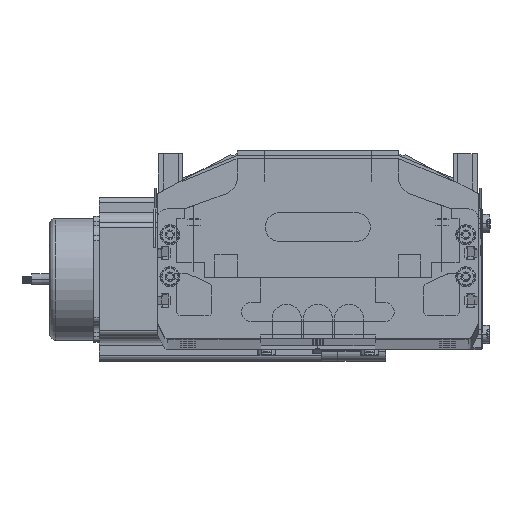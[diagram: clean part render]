
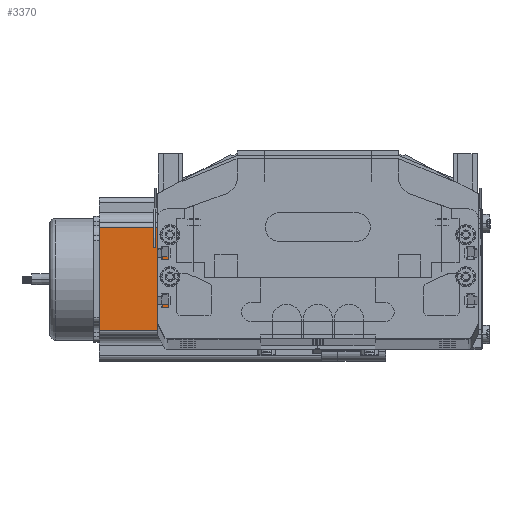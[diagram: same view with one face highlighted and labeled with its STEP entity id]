
A CAD part, top view. The second image highlights one B-rep face of the part: STEP entity #3370.
In plain terms, the highlighted planar face has unit normal (0, 0, 1) as drawn and (0, -1, 0) by its records, which use the part's own axes.
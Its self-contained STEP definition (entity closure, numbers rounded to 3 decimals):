
#3111 = ORIENTED_EDGE ( 'NONE', *, *, #3206, .T. ) ;
#3112 = EDGE_CURVE ( 'NONE', #3281, #3482, #11361, .T. ) ;
#3118 = ORIENTED_EDGE ( 'NONE', *, *, #3112, .F. ) ;
#3119 = EDGE_CURVE ( 'NONE', #3281, #3483, #11342, .T. ) ;
#3128 = ORIENTED_EDGE ( 'NONE', *, *, #3119, .T. ) ;
#3205 = ORIENTED_EDGE ( 'NONE', *, *, #3209, .T. ) ;
#3206 = EDGE_CURVE ( 'NONE', #3279, #3482, #11309, .T. ) ;
#3209 = EDGE_CURVE ( 'NONE', #3483, #3279, #11301, .T. ) ;
#3247 = EDGE_LOOP ( 'NONE', ( #3205, #3111, #3118, #3128 ) ) ;
#3279 = VERTEX_POINT ( 'NONE', #12674 ) ;
#3281 = VERTEX_POINT ( 'NONE', #12685 ) ;
#3370 = ADVANCED_FACE ( 'NONE', ( #12552 ), #12550, .F. ) ;
#3482 = VERTEX_POINT ( 'NONE', #13035 ) ;
#3483 = VERTEX_POINT ( 'NONE', #12944 ) ;
#11292 = DIRECTION ( 'NONE',  ( 1., 0., 0. ) ) ;
#11293 = VECTOR ( 'NONE', #11292, 1000. ) ;
#11294 = CARTESIAN_POINT ( 'NONE',  ( 0., 0., 0. ) ) ;
#11300 = DIRECTION ( 'NONE',  ( 0., 0., 1. ) ) ;
#11301 = LINE ( 'NONE', #11294, #11293 ) ;
#11308 = CARTESIAN_POINT ( 'NONE',  ( 69.74, 0., 116.5 ) ) ;
#11309 = LINE ( 'NONE', #11308, #11311 ) ;
#11311 = VECTOR ( 'NONE', #11300, 1000. ) ;
#11335 = DIRECTION ( 'NONE',  ( 0., 0., -1. ) ) ;
#11336 = VECTOR ( 'NONE', #11335, 1000. ) ;
#11341 = CARTESIAN_POINT ( 'NONE',  ( 16.16, 0., 116.5 ) ) ;
#11342 = LINE ( 'NONE', #11341, #11336 ) ;
#11350 = DIRECTION ( 'NONE',  ( 1., 0., 0. ) ) ;
#11351 = VECTOR ( 'NONE', #11350, 1000. ) ;
#11360 = CARTESIAN_POINT ( 'NONE',  ( 0., 0., 116.5 ) ) ;
#11361 = LINE ( 'NONE', #11360, #11351 ) ;
#12531 = DIRECTION ( 'NONE',  ( 0., 0., 1. ) ) ;
#12532 = DIRECTION ( 'NONE',  ( 0., 1., 0. ) ) ;
#12533 = CARTESIAN_POINT ( 'NONE',  ( 0., 0., 116.5 ) ) ;
#12550 = PLANE ( 'NONE',  #12608 ) ;
#12552 = FACE_OUTER_BOUND ( 'NONE', #3247, .T. ) ;
#12608 = AXIS2_PLACEMENT_3D ( 'NONE', #12533, #12532, #12531 ) ;
#12674 = CARTESIAN_POINT ( 'NONE',  ( 69.74, 0., 0. ) ) ;
#12685 = CARTESIAN_POINT ( 'NONE',  ( 16.16, 0., 116.5 ) ) ;
#12944 = CARTESIAN_POINT ( 'NONE',  ( 16.16, 0., 0. ) ) ;
#13035 = CARTESIAN_POINT ( 'NONE',  ( 69.74, 0., 116.5 ) ) ;
